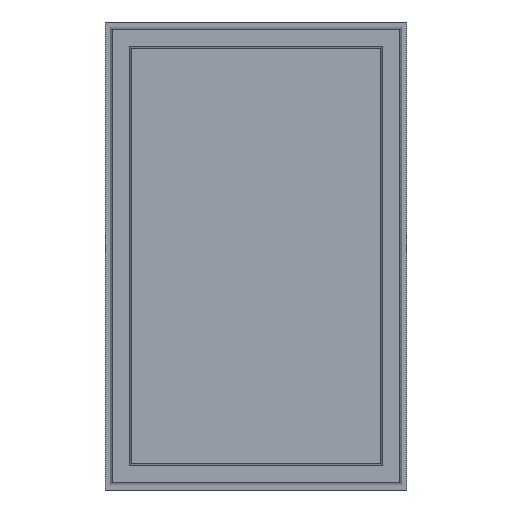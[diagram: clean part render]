
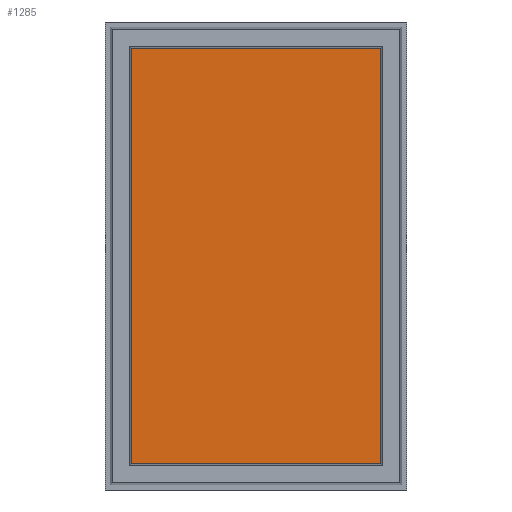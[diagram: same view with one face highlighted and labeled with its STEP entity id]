
A CAD part, front view. The second image highlights one B-rep face of the part: STEP entity #1285.
In plain terms, the highlighted planar face has unit normal (0, -1, 0).
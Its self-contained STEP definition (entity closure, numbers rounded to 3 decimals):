
#20 = CARTESIAN_POINT ( 'NONE',  ( 0., -2., 39.98 ) ) ;
#33 = EDGE_CURVE ( 'NONE', #1551, #1158, #793, .T. ) ;
#97 = EDGE_CURVE ( 'NONE', #1231, #1261, #788, .T. ) ;
#107 = DIRECTION ( 'NONE',  ( 0., 0., -1. ) ) ;
#108 = ORIENTED_EDGE ( 'NONE', *, *, #97, .T. ) ;
#197 = DIRECTION ( 'NONE',  ( 0., 0., 1. ) ) ;
#298 = CARTESIAN_POINT ( 'NONE',  ( 0., -2., 0. ) ) ;
#434 = LINE ( 'NONE', #298, #1306 ) ;
#471 = DIRECTION ( 'NONE',  ( 0., 1., 0. ) ) ;
#502 = DIRECTION ( 'NONE',  ( 0., 0., 1. ) ) ;
#558 = DIRECTION ( 'NONE',  ( -1., 0., 0. ) ) ;
#670 = ORIENTED_EDGE ( 'NONE', *, *, #1226, .T. ) ;
#752 = VECTOR ( 'NONE', #107, 1000. ) ;
#788 = LINE ( 'NONE', #1333, #752 ) ;
#793 = LINE ( 'NONE', #1342, #1658 ) ;
#809 = EDGE_LOOP ( 'NONE', ( #1512, #670, #108, #1378 ) ) ;
#1039 = AXIS2_PLACEMENT_3D ( 'NONE', #1574, #471, #197 ) ;
#1063 = CARTESIAN_POINT ( 'NONE',  ( -12., -2., 0. ) ) ;
#1078 = EDGE_CURVE ( 'NONE', #1261, #1551, #434, .T. ) ;
#1148 = PLANE ( 'NONE',  #1039 ) ;
#1158 = VERTEX_POINT ( 'NONE', #1511 ) ;
#1226 = EDGE_CURVE ( 'NONE', #1158, #1231, #1254, .T. ) ;
#1231 = VERTEX_POINT ( 'NONE', #1586 ) ;
#1254 = LINE ( 'NONE', #20, #1272 ) ;
#1261 = VERTEX_POINT ( 'NONE', #1063 ) ;
#1272 = VECTOR ( 'NONE', #558, 1000. ) ;
#1285 = ADVANCED_FACE ( 'NONE', ( #1288 ), #1148, .F. ) ;
#1288 = FACE_OUTER_BOUND ( 'NONE', #809, .T. ) ;
#1289 = DIRECTION ( 'NONE',  ( 1., 0., 0. ) ) ;
#1306 = VECTOR ( 'NONE', #1289, 1000. ) ;
#1333 = CARTESIAN_POINT ( 'NONE',  ( -12., -2., 0. ) ) ;
#1342 = CARTESIAN_POINT ( 'NONE',  ( 12., -2., 0. ) ) ;
#1378 = ORIENTED_EDGE ( 'NONE', *, *, #1078, .T. ) ;
#1511 = CARTESIAN_POINT ( 'NONE',  ( 12., -2., 39.98 ) ) ;
#1512 = ORIENTED_EDGE ( 'NONE', *, *, #33, .T. ) ;
#1551 = VERTEX_POINT ( 'NONE', #1655 ) ;
#1574 = CARTESIAN_POINT ( 'NONE',  ( 0., -2., 42.48 ) ) ;
#1586 = CARTESIAN_POINT ( 'NONE',  ( -12., -2., 39.98 ) ) ;
#1655 = CARTESIAN_POINT ( 'NONE',  ( 12., -2., 0. ) ) ;
#1658 = VECTOR ( 'NONE', #502, 1000. ) ;
